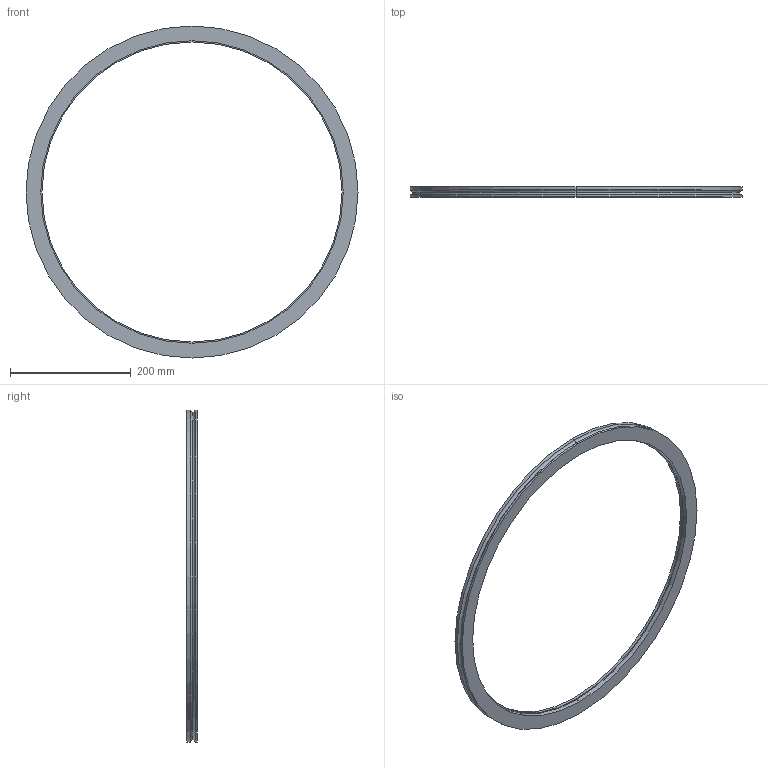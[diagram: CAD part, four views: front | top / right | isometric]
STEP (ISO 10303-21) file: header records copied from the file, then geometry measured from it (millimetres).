
FILE_DESCRIPTION (( 'STEP AP214' ), '1' );
FILE_NAME ('W4KL500.STEP', '2020-09-23T06:32:15', ( '' ), ( '' ), 'SwSTEP 2.0', 'SolidWorks 2020', '' );
FILE_SCHEMA (( 'AUTOMOTIVE_DESIGN' ));
Length unit declared in the file: millimetre
Products named in the file (1): W4KL500
Bounding box: 550 x 17 x 550 mm (x, y, z)
Volume: 566630.8 mm3; surface area: 151282.6 mm2
Topology: 1 solids, 1 shells, 21 faces, 42 edges, 26 vertices
Faces by surface type: cylinder 12, plane 5, torus 4
Entity records: 596 total; most frequent: DIRECTION 116, CARTESIAN_POINT 90, ORIENTED_EDGE 84, AXIS2_PLACEMENT_3D 52, EDGE_CURVE 42, CIRCLE 30, EDGE_LOOP 26, VERTEX_POINT 26
